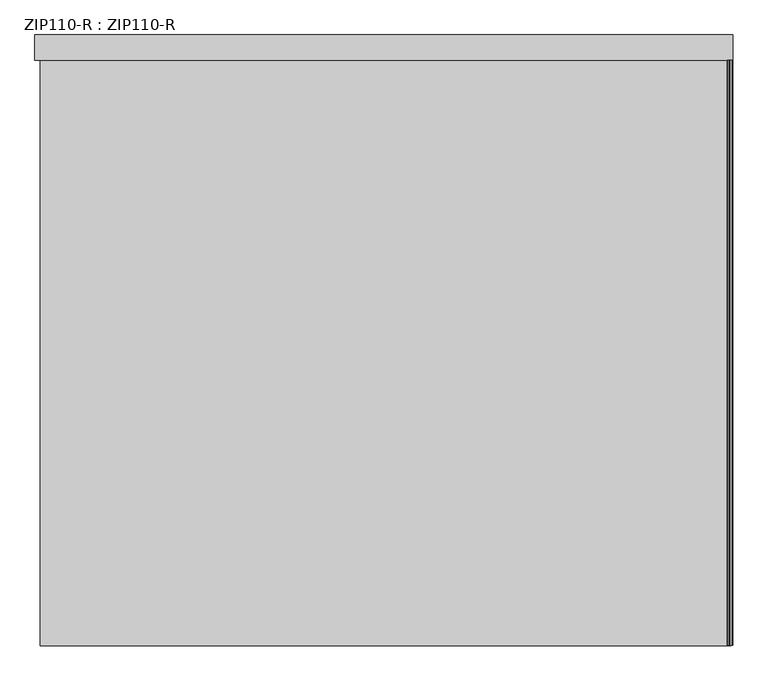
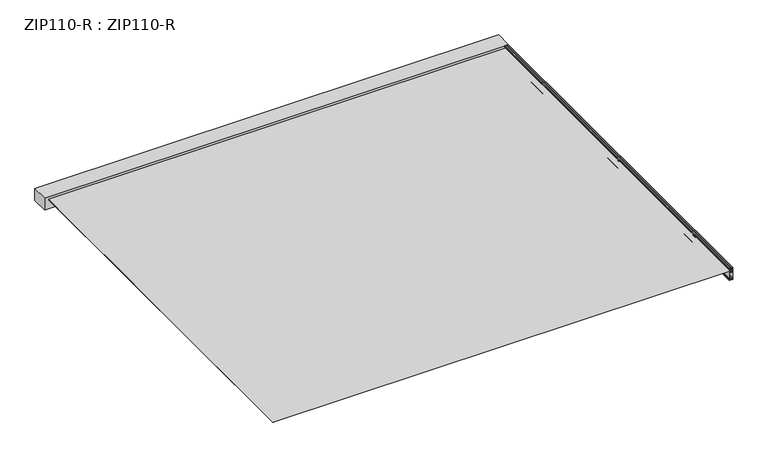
"""IFC4 building model written with IfcOpenShell, lengths in millimetres: proxy geometry, ZIP110-R : ZIP110-R."""

from ifc_helpers import new_model, si_unit, frame, origin, origin_with_axes, place, context, project, spatial, polyline, circle_curve, outline, extrude, source, transform, mapped, element, save
from ifc_brep_helpers import plane_surface, cylinder_surface, revolved_surface, advanced_brep


def zip110_r_zip110_r_59bd9ca7(model_context):
    return source(origin(), model_context, "Body", "SolidModel", [
        advanced_brep(
        [(1980.5, 2.5, 110.0), (1969.0, 2.5, 110.0), (1968.0, 2.5, 109.0), (1968.0, 2.5, 95.6), (1969.0, 2.5, 94.6), (1977.4, 2.5, 94.6), (1977.4, 2.5, 95.8), (1974.0, 2.5, 95.8), (1973.5, 2.5, 96.3), (1973.5, 2.5, 102.0), (1974.0, 2.5, 102.5), (1978.25, 2.5, 102.5), (1988.2, 2.5, 102.5), (1988.7, 2.5, 102.0), (1988.7, 2.5, 93.25), (1988.7, 2.5, 88.9474648), (1988.7, 2.5, 84.75), (1988.7, 2.5, 72.1), (1989.2, 2.5, 71.6), (1990.2, 2.5, 71.6), (1990.2, 2.5, 72.8), (1992.7954131, 2.5, 73.0270692), (1994.0977166, 2.5, 71.7576425), (1993.9535534, 2.5, 70.9535534), (1989.5596194, 2.5, 66.5596194), (1990.4788582, 2.5, 65.6403806), (1995.9384776, 2.5, 71.1), (1997.0, 2.5, 71.1), (1997.5, 2.5, 70.6), (1997.5, 2.5, 62.0), (1997.5, 2.5, 59.641696), (1997.5, 2.5, 58.0), (1997.5, 2.5, 12.8), (1997.0, 2.5, 12.3), (1986.3071797, 2.5, 12.3), (1986.2077069, 2.5, 11.4898593), (1987.0, 2.5, 11.1), (1996.5, 2.5, 11.1), (1997.5, 2.5, 10.1), (1997.5, 2.5, 7.9), (1996.5, 2.5, 6.9), (1987.0, 2.5, 6.9), (1986.0648483, 2.5, 6.2542475), (1986.6190958, 2.5, 5.7), (1997.0, 2.5, 5.7), (1997.5, 2.5, 5.2), (1997.5, 2.5, 2.0), (1997.0, 2.5, 1.5), (1979.0685439, 2.5, 1.5), (1978.6865207, 2.5, 2.3225806), (1977.9818814, 2.5, 3.0425137), (1976.1000964, 2.5, 2.5167213), (1975.178132, 2.5, 4.4938803), (1976.7905004, 2.5, 5.5974385), (1976.8470631, 2.5, 6.5958375), (1975.860326, 2.5, 6.4606803), (1973.9101021, 2.5, 6.7), (1971.5, 2.5, 6.7), (1971.5658186, 2.5, 5.6417681), (1972.3, 2.5, 5.2), (1972.3, 2.5, 3.7577254), (1971.7131759, 2.5, 3.2653215), (1969.5, 2.5, 3.6555641), (1969.5, 2.5, 13.3), (1970.8, 2.5, 13.3), (1971.3, 2.5, 12.8), (1971.3, 2.5, 11.1), (1972.1, 2.5, 11.1), (1972.5, 2.5, 11.919611), (1972.5, 2.5, 13.7609004), (1971.6736482, 2.5, 14.7457081), (1969.5, 2.5, 15.1289809), (1969.5, 2.5, 76.9833887), (1971.4131759, 2.5, 77.3207332), (1972.0, 2.5, 76.8283293), (1972.0, 2.5, 69.9), (1989.2723286, 2.5, 69.9), (1993.3030746, 2.5, 71.4555556), (1992.9, 2.5, 72.5), (1990.4889527, 2.5, 72.5), (1990.4889527, 2.5, 71.4), (1973.5, 2.5, 71.4), (1973.5, 2.5, 77.6886966), (1975.8326175, 2.5, 78.1), (1977.7081958, 2.5, 78.1), (1977.7081958, 2.5, 79.3), (1974.0, 2.5, 79.3), (1968.8263518, 2.5, 78.3877462), (1968.0, 2.5, 77.4029385), (1968.0, 2.5, 7.9507949), (1968.0, 2.5, 2.0685346), (1968.0, 2.5, 1.0), (1969.0, 2.5, 0.0), (1999.0, 2.5, 0.0), (2000.0, 2.5, 1.0), (2000.0, 2.5, 2.0857864), (1999.0, 2.5, 3.0857864), (1999.0, 2.5, 55.75), (2000.0, 2.5, 55.75), (2000.0, 2.5, 57.0432748), (1999.2, 2.5, 57.0432748), (1999.2, 2.5, 60.138621), (1999.2, 2.5, 62.9567252), (2000.0, 2.5, 62.9567252), (2000.0, 2.5, 64.25), (1999.0, 2.5, 64.25), (1999.0, 2.5, 80.4142136), (2000.0, 2.5, 81.4142136), (2000.0, 2.5, 85.2133021), (2000.0, 2.5, 109.0), (1999.0, 2.5, 110.0), (1984.5, 2.5, 110.0), (1983.1683375, 2.5, 110.0), (1980.5, 3355.0, 110.0), (1983.1683375, 3355.0, 110.0), (1984.5, 3355.0, 110.0), (1999.0, 3355.0, 110.0), (2000.0, 3355.0, 109.0), (2000.0, 3355.0, 85.2133021), (2000.0, 3355.0, 81.4142136), (1999.0, 3355.0, 80.4142136), (1999.0, 3355.0, 64.25), (2000.0, 3355.0, 64.25), (2000.0, 3355.0, 62.9567252), (1999.2, 3355.0, 62.9567252), (1999.2, 3355.0, 60.138621), (1999.2, 3355.0, 57.0432748), (2000.0, 3355.0, 57.0432748), (2000.0, 3355.0, 55.75), (1999.0, 3355.0, 55.75), (1999.0, 3355.0, 3.0857864), (2000.0, 3355.0, 2.0857864), (2000.0, 3355.0, 1.0), (1999.0, 3355.0, 0.0), (1969.0, 3355.0, 0.0), (1968.0, 3355.0, 1.0), (1968.0, 3355.0, 2.0685346), (1968.0, 3355.0, 7.9507949), (1968.0, 3355.0, 77.4029385), (1968.8263518, 3355.0, 78.3877462), (1974.0, 3355.0, 79.3), (1977.7081958, 3355.0, 79.3), (1977.7081958, 3355.0, 78.1), (1975.8326175, 3355.0, 78.1), (1973.5, 3355.0, 77.6886966), (1973.5, 3355.0, 71.4), (1990.4889527, 3355.0, 71.4), (1990.4889527, 3355.0, 72.5), (1992.9, 3355.0, 72.5), (1993.3030746, 3355.0, 71.4555556), (1989.2723286, 3355.0, 69.9), (1972.0, 3355.0, 69.9), (1972.0, 3355.0, 76.8283293), (1971.4131759, 3355.0, 77.3207332), (1969.5, 3355.0, 76.9833887), (1969.5, 3355.0, 15.1289809), (1971.6736482, 3355.0, 14.7457081), (1972.5, 3355.0, 13.7609004), (1972.5, 3355.0, 11.919611), (1972.1, 3355.0, 11.1), (1971.3, 3355.0, 11.1), (1971.3, 3355.0, 12.8), (1970.8, 3355.0, 13.3), (1969.5, 3355.0, 13.3), (1969.5, 3355.0, 3.6555641), (1971.7131759, 3355.0, 3.2653215), (1972.3, 3355.0, 3.7577254), (1972.3, 3355.0, 5.2), (1971.5658186, 3355.0, 5.6417681), (1971.5, 3355.0, 6.7), (1973.9101021, 3355.0, 6.7), (1975.860326, 3355.0, 6.4606803), (1976.8470631, 3355.0, 6.5958375), (1976.7905004, 3355.0, 5.5974385), (1975.178132, 3355.0, 4.4938803), (1976.1000964, 3355.0, 2.5167213), (1977.9818814, 3355.0, 3.0425137), (1978.7830573, 3355.0, 2.4440847), (1979.0685439, 3355.0, 1.5), (1997.0, 3355.0, 1.5), (1997.5, 3355.0, 2.0), (1997.5, 3355.0, 5.2), (1997.0, 3355.0, 5.7), (1986.6190958, 3355.0, 5.7), (1986.0648483, 3355.0, 6.2542475), (1987.0, 3355.0, 6.9), (1996.5, 3355.0, 6.9), (1997.5, 3355.0, 7.9), (1997.5, 3355.0, 10.1), (1996.5, 3355.0, 11.1), (1987.0, 3355.0, 11.1), (1986.2077069, 3355.0, 11.4898593), (1986.3071797, 3355.0, 12.3), (1997.0, 3355.0, 12.3), (1997.5, 3355.0, 12.8), (1997.5, 3355.0, 58.0), (1997.5, 3355.0, 59.641696), (1997.5, 3355.0, 62.0), (1997.5, 3355.0, 70.6), (1997.0, 3355.0, 71.1), (1995.9384776, 3355.0, 71.1), (1990.4788582, 3355.0, 65.6403806), (1989.5596194, 3355.0, 66.5596194), (1993.9535534, 3355.0, 70.9535534), (1994.0977166, 3355.0, 71.7576425), (1992.7954131, 3355.0, 73.0270692), (1990.2, 3355.0, 72.8), (1990.2, 3355.0, 71.6), (1989.2, 3355.0, 71.6), (1988.7, 3355.0, 72.1), (1988.7, 3355.0, 84.75), (1988.7, 3355.0, 88.9474648), (1988.7, 3355.0, 93.25), (1988.7, 3355.0, 102.0), (1988.2, 3355.0, 102.5), (1978.25, 3355.0, 102.5), (1974.0, 3355.0, 102.5), (1973.5, 3355.0, 102.0), (1973.5, 3355.0, 96.3), (1974.0, 3355.0, 95.8), (1977.4, 3355.0, 95.8), (1977.4, 3355.0, 94.6), (1969.0, 3355.0, 94.6), (1968.0, 3355.0, 95.6), (1968.0, 3355.0, 109.0), (1969.0, 3355.0, 110.0)],
        [
            (0, 1),
            (1, 2, circle_curve(frame((1969.0, 2.5, 109.0), z_axis=(0.0, -1.0, 0.0), x_axis=(-1.0, 0.0, 0.0)), 1.0)),
            (2, 3),
            (3, 4, circle_curve(frame((1969.0, 2.5, 95.6), z_axis=(0.0, -1.0, 0.0), x_axis=(-1.0, 0.0, 0.0)), 1.0)),
            (4, 5),
            (5, 6, circle_curve(frame((1976.826947, 2.5, 95.2), z_axis=(0.0, -1.0, 0.0), x_axis=(-1.0, 0.0, 0.0)), 0.8296925)),
            (6, 7),
            (7, 8, circle_curve(frame((1974.0, 2.5, 96.3), z_axis=(0.0, 1.0, 0.0), x_axis=(-1.0, 0.0, 0.0)), 0.5)),
            (8, 9),
            (9, 10, circle_curve(frame((1974.0, 2.5, 102.0), z_axis=(0.0, 1.0, 0.0), x_axis=(-1.0, 0.0, 0.0)), 0.5)),
            (10, 11),
            (11, 12),
            (12, 13, circle_curve(frame((1988.2, 2.5, 102.0), z_axis=(0.0, 1.0, 0.0), x_axis=(-1.0, 0.0, 0.0)), 0.5)),
            (13, 14),
            (14, 15),
            (15, 16),
            (16, 17),
            (17, 18, circle_curve(frame((1989.2, 2.5, 72.1), z_axis=(0.0, -1.0, 0.0), x_axis=(-1.0, 0.0, 0.0)), 0.5)),
            (18, 19),
            (19, 20),
            (20, 21),
            (21, 22, circle_curve(frame((1992.9, 2.5, 71.8316356), z_axis=(0.0, 1.0, 0.0), x_axis=(-1.0, 0.0, 0.0)), 1.2)),
            (22, 23, circle_curve(frame((1993.4479343, 2.5, 71.4591725), z_axis=(0.0, 1.0, 0.0), x_axis=(-1.0, 0.0, 0.0)), 0.7150534)),
            (23, 24),
            (24, 25, circle_curve(frame((1990.0192388, 2.5, 66.1), z_axis=(0.0, -1.0, 0.0), x_axis=(-1.0, 0.0, 0.0)), 0.65)),
            (25, 26),
            (26, 27),
            (27, 28, circle_curve(frame((1997.0, 2.5, 70.6), z_axis=(0.0, 1.0, 0.0), x_axis=(-1.0, 0.0, 0.0)), 0.5)),
            (28, 29),
            (29, 30),
            (30, 31),
            (31, 32),
            (32, 33, circle_curve(frame((1997.0, 2.5, 12.8), z_axis=(0.0, 1.0, 0.0), x_axis=(-1.0, 0.0, 0.0)), 0.5)),
            (33, 34),
            (34, 35, circle_curve(frame((1986.4663238, 2.5, 11.8692824), z_axis=(0.0, -1.0, 0.0), x_axis=(-1.0, 0.0, 0.0)), 0.4591781)),
            (35, 36, circle_curve(frame((1987.0, 2.5, 12.1), z_axis=(0.0, -1.0, 0.0), x_axis=(-1.0, 0.0, 0.0)), 1.0)),
            (36, 37),
            (37, 38, circle_curve(frame((1996.5, 2.5, 10.1), z_axis=(0.0, 1.0, 0.0), x_axis=(-1.0, 0.0, 0.0)), 1.0)),
            (38, 39),
            (39, 40, circle_curve(frame((1996.5, 2.5, 7.9), z_axis=(0.0, 1.0, 0.0), x_axis=(-1.0, 0.0, 0.0)), 1.0)),
            (40, 41),
            (41, 42, circle_curve(frame((1987.0, 2.5, 5.9), z_axis=(0.0, -1.0, 0.0), x_axis=(-1.0, 0.0, 0.0)), 1.0)),
            (42, 43, circle_curve(frame((1986.469736, 2.5, 6.1048877), z_axis=(0.0, -1.0, 0.0), x_axis=(-1.0, 0.0, 0.0)), 0.4315581)),
            (43, 44),
            (44, 45, circle_curve(frame((1997.0, 2.5, 5.2), z_axis=(0.0, 1.0, 0.0), x_axis=(-1.0, 0.0, 0.0)), 0.5)),
            (45, 46),
            (46, 47, circle_curve(frame((1997.0, 2.5, 2.0), z_axis=(0.0, 1.0, 0.0), x_axis=(-1.0, 0.0, 0.0)), 0.5)),
            (47, 48),
            (48, 49, circle_curve(frame((1979.0685439, 2.5, 2.0), z_axis=(0.0, 1.0, 0.0), x_axis=(-1.0, 0.0, 0.0)), 0.5)),
            (49, 50, circle_curve(frame((1978.3824693, 2.5, 2.7432992), z_axis=(0.0, -1.0, 0.0), x_axis=(-1.0, 0.0, 0.0)), 0.5)),
            (50, 51, circle_curve(frame((1976.7, 2.5, 4.0), z_axis=(0.0, 1.0, 0.0), x_axis=(-1.0, 0.0, 0.0)), 1.6)),
            (51, 52, circle_curve(frame((1975.9692715, 2.5, 3.6592557), z_axis=(0.0, 1.0, 0.0), x_axis=(-1.0, 0.0, 0.0)), 1.15)),
            (52, 53, circle_curve(frame((1976.7, 2.5, 4.0), z_axis=(0.0, 1.0, 0.0), x_axis=(-1.0, 0.0, 0.0)), 1.6)),
            (53, 54, circle_curve(frame((1976.8187818, 2.5, 6.096638), z_axis=(0.0, -1.0, 0.0), x_axis=(-1.0, 0.0, 0.0)), 0.5)),
            (54, 55, circle_curve(frame((1976.7, 2.5, 4.0), z_axis=(0.0, -1.0, 0.0), x_axis=(-1.0, 0.0, 0.0)), 2.6)),
            (55, 56),
            (56, 57),
            (57, 58, circle_curve(frame((1971.8975235, 2.5, 6.1935619), z_axis=(0.0, -1.0, 0.0), x_axis=(-1.0, 0.0, 0.0)), 0.6438202)),
            (58, 59, circle_curve(frame((1971.8, 2.5, 5.2), z_axis=(0.0, 1.0, 0.0), x_axis=(-1.0, 0.0, 0.0)), 0.5)),
            (59, 60),
            (60, 61, circle_curve(frame((1971.8, 2.5, 3.7577254), z_axis=(0.0, 1.0, 0.0), x_axis=(-1.0, 0.0, 0.0)), 0.5)),
            (61, 62),
            (62, 63),
            (63, 64),
            (64, 65, circle_curve(frame((1970.8, 2.5, 12.8), z_axis=(0.0, 1.0, 0.0), x_axis=(-1.0, 0.0, 0.0)), 0.5)),
            (65, 66),
            (66, 67),
            (67, 68, circle_curve(frame((1971.8859152, 2.5, 11.711894), z_axis=(0.0, -1.0, 0.0), x_axis=(-1.0, 0.0, 0.0)), 0.6482642)),
            (68, 69),
            (69, 70, circle_curve(frame((1971.5, 2.5, 13.7609004), z_axis=(0.0, -1.0, 0.0), x_axis=(-1.0, 0.0, 0.0)), 1.0)),
            (70, 71),
            (71, 72),
            (72, 73),
            (73, 74, circle_curve(frame((1971.5, 2.5, 76.8283293), z_axis=(0.0, 1.0, 0.0), x_axis=(-1.0, 0.0, 0.0)), 0.5)),
            (74, 75),
            (75, 76),
            (76, 77, circle_curve(frame((1989.2723286, 2.5, 75.9), z_axis=(0.0, -1.0, 0.0), x_axis=(-1.0, 0.0, 0.0)), 6.0)),
            (77, 78, circle_curve(frame((1992.9, 2.5, 71.9), z_axis=(0.0, -1.0, 0.0), x_axis=(-1.0, 0.0, 0.0)), 0.6)),
            (78, 79),
            (79, 80),
            (80, 81),
            (81, 82),
            (82, 83),
            (83, 84),
            (84, 85),
            (85, 86),
            (86, 87),
            (87, 88, circle_curve(frame((1969.0, 2.5, 77.4029385), z_axis=(0.0, -1.0, 0.0), x_axis=(-1.0, 0.0, 0.0)), 1.0)),
            (88, 89),
            (89, 90),
            (90, 91),
            (91, 92, circle_curve(frame((1969.0, 2.5, 1.0), z_axis=(0.0, -1.0, 0.0), x_axis=(-1.0, 0.0, 0.0)), 1.0)),
            (92, 93),
            (93, 94, circle_curve(frame((1999.0, 2.5, 1.0), z_axis=(0.0, -1.0, 0.0), x_axis=(-1.0, 0.0, 0.0)), 1.0)),
            (94, 95),
            (95, 96, circle_curve(frame((1999.0, 2.5, 2.0857864), z_axis=(0.0, -1.0, 0.0), x_axis=(-1.0, 0.0, 0.0)), 1.0)),
            (96, 97),
            (97, 98),
            (98, 99),
            (99, 100),
            (100, 101),
            (101, 102),
            (102, 103),
            (103, 104),
            (104, 105),
            (105, 106),
            (106, 107, circle_curve(frame((1999.0, 2.5, 81.4142136), z_axis=(0.0, -1.0, 0.0), x_axis=(-1.0, 0.0, 0.0)), 1.0)),
            (107, 108),
            (108, 109),
            (109, 110, circle_curve(frame((1999.0, 2.5, 109.0), z_axis=(0.0, -1.0, 0.0), x_axis=(-1.0, 0.0, 0.0)), 1.0)),
            (110, 111),
            (111, 112),
            (112, 0),
            (113, 114),
            (114, 115),
            (115, 116),
            (116, 117, circle_curve(frame((1999.0, 3355.0, 109.0), z_axis=(0.0, 1.0, 0.0), x_axis=(-1.0, 0.0, 0.0)), 1.0)),
            (117, 118),
            (118, 119),
            (119, 120, circle_curve(frame((1999.0, 3355.0, 81.4142136), z_axis=(0.0, 1.0, 0.0), x_axis=(-1.0, 0.0, 0.0)), 1.0)),
            (120, 121),
            (121, 122),
            (122, 123),
            (123, 124),
            (124, 125),
            (125, 126),
            (126, 127),
            (127, 128),
            (128, 129),
            (129, 130),
            (130, 131, circle_curve(frame((1999.0, 3355.0, 2.0857864), z_axis=(0.0, 1.0, 0.0), x_axis=(-1.0, 0.0, 0.0)), 1.0)),
            (131, 132),
            (132, 133, circle_curve(frame((1999.0, 3355.0, 1.0), z_axis=(0.0, 1.0, 0.0), x_axis=(-1.0, 0.0, 0.0)), 1.0)),
            (133, 134),
            (134, 135, circle_curve(frame((1969.0, 3355.0, 1.0), z_axis=(0.0, 1.0, 0.0), x_axis=(-1.0, 0.0, 0.0)), 1.0)),
            (135, 136),
            (136, 137),
            (137, 138),
            (138, 139, circle_curve(frame((1969.0, 3355.0, 77.4029385), z_axis=(0.0, 1.0, 0.0), x_axis=(-1.0, 0.0, 0.0)), 1.0)),
            (139, 140),
            (140, 141),
            (141, 142),
            (142, 143),
            (143, 144),
            (144, 145),
            (145, 146),
            (146, 147),
            (147, 148),
            (148, 149, circle_curve(frame((1992.9, 3355.0, 71.9), z_axis=(0.0, 1.0, 0.0), x_axis=(-1.0, 0.0, 0.0)), 0.6)),
            (149, 150, circle_curve(frame((1989.2723286, 3355.0, 75.9), z_axis=(0.0, 1.0, 0.0), x_axis=(-1.0, 0.0, 0.0)), 6.0)),
            (150, 151),
            (151, 152),
            (152, 153, circle_curve(frame((1971.5, 3355.0, 76.8283293), z_axis=(0.0, -1.0, 0.0), x_axis=(-1.0, 0.0, 0.0)), 0.5)),
            (153, 154),
            (154, 155),
            (155, 156),
            (156, 157, circle_curve(frame((1971.5, 3355.0, 13.7609004), z_axis=(0.0, 1.0, 0.0), x_axis=(-1.0, 0.0, 0.0)), 1.0)),
            (157, 158),
            (158, 159, circle_curve(frame((1971.8859152, 3355.0, 11.711894), z_axis=(0.0, 1.0, 0.0), x_axis=(-1.0, 0.0, 0.0)), 0.6482642)),
            (159, 160),
            (160, 161),
            (161, 162, circle_curve(frame((1970.8, 3355.0, 12.8), z_axis=(0.0, -1.0, 0.0), x_axis=(-1.0, 0.0, 0.0)), 0.5)),
            (162, 163),
            (163, 164),
            (164, 165),
            (165, 166, circle_curve(frame((1971.8, 3355.0, 3.7577254), z_axis=(0.0, -1.0, 0.0), x_axis=(-1.0, 0.0, 0.0)), 0.5)),
            (166, 167),
            (167, 168, circle_curve(frame((1971.8, 3355.0, 5.2), z_axis=(0.0, -1.0, 0.0), x_axis=(-1.0, 0.0, 0.0)), 0.5)),
            (168, 169, circle_curve(frame((1971.8975235, 3355.0, 6.1935619), z_axis=(0.0, 1.0, 0.0), x_axis=(-1.0, 0.0, 0.0)), 0.6438202)),
            (169, 170),
            (170, 171),
            (171, 172, circle_curve(frame((1976.7, 3355.0, 4.0), z_axis=(0.0, 1.0, 0.0), x_axis=(-1.0, 0.0, 0.0)), 2.6)),
            (172, 173, circle_curve(frame((1976.8187818, 3355.0, 6.096638), z_axis=(0.0, 1.0, 0.0), x_axis=(-1.0, 0.0, 0.0)), 0.5)),
            (173, 174, circle_curve(frame((1976.7, 3355.0, 4.0), z_axis=(0.0, -1.0, 0.0), x_axis=(-1.0, 0.0, 0.0)), 1.6)),
            (174, 175, circle_curve(frame((1975.9692715, 3355.0, 3.6592557), z_axis=(0.0, -1.0, 0.0), x_axis=(-1.0, 0.0, 0.0)), 1.15)),
            (175, 176, circle_curve(frame((1976.7, 3355.0, 4.0), z_axis=(0.0, -1.0, 0.0), x_axis=(-1.0, 0.0, 0.0)), 1.6)),
            (176, 177, circle_curve(frame((1978.3824693, 3355.0, 2.7432992), z_axis=(0.0, 1.0, 0.0), x_axis=(-1.0, 0.0, 0.0)), 0.5)),
            (177, 178, circle_curve(frame((1979.0685439, 3355.0, 2.0), z_axis=(0.0, -1.0, 0.0), x_axis=(-1.0, 0.0, 0.0)), 0.5)),
            (178, 179),
            (179, 180, circle_curve(frame((1997.0, 3355.0, 2.0), z_axis=(0.0, -1.0, 0.0), x_axis=(-1.0, 0.0, 0.0)), 0.5)),
            (180, 181),
            (181, 182, circle_curve(frame((1997.0, 3355.0, 5.2), z_axis=(0.0, -1.0, 0.0), x_axis=(-1.0, 0.0, 0.0)), 0.5)),
            (182, 183),
            (183, 184, circle_curve(frame((1986.469736, 3355.0, 6.1048877), z_axis=(0.0, 1.0, 0.0), x_axis=(-1.0, 0.0, 0.0)), 0.4315581)),
            (184, 185, circle_curve(frame((1987.0, 3355.0, 5.9), z_axis=(0.0, 1.0, 0.0), x_axis=(-1.0, 0.0, 0.0)), 1.0)),
            (185, 186),
            (186, 187, circle_curve(frame((1996.5, 3355.0, 7.9), z_axis=(0.0, -1.0, 0.0), x_axis=(-1.0, 0.0, 0.0)), 1.0)),
            (187, 188),
            (188, 189, circle_curve(frame((1996.5, 3355.0, 10.1), z_axis=(0.0, -1.0, 0.0), x_axis=(-1.0, 0.0, 0.0)), 1.0)),
            (189, 190),
            (190, 191, circle_curve(frame((1987.0, 3355.0, 12.1), z_axis=(0.0, 1.0, 0.0), x_axis=(-1.0, 0.0, 0.0)), 1.0)),
            (191, 192, circle_curve(frame((1986.4663238, 3355.0, 11.8692824), z_axis=(0.0, 1.0, 0.0), x_axis=(-1.0, 0.0, 0.0)), 0.4591781)),
            (192, 193),
            (193, 194, circle_curve(frame((1997.0, 3355.0, 12.8), z_axis=(0.0, -1.0, 0.0), x_axis=(-1.0, 0.0, 0.0)), 0.5)),
            (194, 195),
            (195, 196),
            (196, 197),
            (197, 198),
            (198, 199, circle_curve(frame((1997.0, 3355.0, 70.6), z_axis=(0.0, -1.0, 0.0), x_axis=(-1.0, 0.0, 0.0)), 0.5)),
            (199, 200),
            (200, 201),
            (201, 202, circle_curve(frame((1990.0192388, 3355.0, 66.1), z_axis=(0.0, 1.0, 0.0), x_axis=(-1.0, 0.0, 0.0)), 0.65)),
            (202, 203),
            (203, 204, circle_curve(frame((1993.4479343, 3355.0, 71.4591725), z_axis=(0.0, -1.0, 0.0), x_axis=(-1.0, 0.0, 0.0)), 0.7150534)),
            (204, 205, circle_curve(frame((1992.9, 3355.0, 71.8316356), z_axis=(0.0, -1.0, 0.0), x_axis=(-1.0, 0.0, 0.0)), 1.2)),
            (205, 206),
            (206, 207),
            (207, 208),
            (208, 209, circle_curve(frame((1989.2, 3355.0, 72.1), z_axis=(0.0, 1.0, 0.0), x_axis=(-1.0, 0.0, 0.0)), 0.5)),
            (209, 210),
            (210, 211),
            (211, 212),
            (212, 213),
            (213, 214, circle_curve(frame((1988.2, 3355.0, 102.0), z_axis=(0.0, -1.0, 0.0), x_axis=(-1.0, 0.0, 0.0)), 0.5)),
            (214, 215),
            (215, 216),
            (216, 217, circle_curve(frame((1974.0, 3355.0, 102.0), z_axis=(0.0, -1.0, 0.0), x_axis=(-1.0, 0.0, 0.0)), 0.5)),
            (217, 218),
            (218, 219, circle_curve(frame((1974.0, 3355.0, 96.3), z_axis=(0.0, -1.0, 0.0), x_axis=(-1.0, 0.0, 0.0)), 0.5)),
            (219, 220),
            (220, 221, circle_curve(frame((1976.826947, 3355.0, 95.2), z_axis=(0.0, 1.0, 0.0), x_axis=(-1.0, 0.0, 0.0)), 0.8296925)),
            (221, 222),
            (222, 223, circle_curve(frame((1969.0, 3355.0, 95.6), z_axis=(0.0, 1.0, 0.0), x_axis=(-1.0, 0.0, 0.0)), 1.0)),
            (223, 224),
            (224, 225, circle_curve(frame((1969.0, 3355.0, 109.0), z_axis=(0.0, 1.0, 0.0), x_axis=(-1.0, 0.0, 0.0)), 1.0)),
            (225, 113),
            (112, 114),
            (113, 0),
            (111, 115),
            (110, 116),
            (109, 117),
            (108, 118),
            (107, 119),
            (106, 120),
            (105, 121),
            (104, 122),
            (103, 123),
            (102, 124),
            (101, 125),
            (100, 126),
            (99, 127),
            (98, 128),
            (97, 129),
            (96, 130),
            (95, 131),
            (94, 132),
            (93, 133),
            (92, 134),
            (91, 135),
            (90, 136),
            (89, 137),
            (88, 138),
            (87, 139),
            (86, 140),
            (85, 141),
            (84, 142),
            (83, 143),
            (82, 144),
            (81, 145),
            (80, 146),
            (79, 147),
            (78, 148),
            (77, 149),
            (76, 150),
            (75, 151),
            (74, 152),
            (73, 153),
            (72, 154),
            (71, 155),
            (70, 156),
            (69, 157),
            (68, 158),
            (67, 159),
            (66, 160),
            (65, 161),
            (64, 162),
            (63, 163),
            (62, 164),
            (61, 165),
            (60, 166),
            (59, 167),
            (58, 168),
            (57, 169),
            (56, 170),
            (55, 171),
            (54, 172),
            (53, 173),
            (52, 174),
            (51, 175),
            (50, 176),
            (49, 177),
            (48, 178),
            (47, 179),
            (46, 180),
            (45, 181),
            (44, 182),
            (43, 183),
            (42, 184),
            (41, 185),
            (40, 186),
            (39, 187),
            (38, 188),
            (37, 189),
            (36, 190),
            (35, 191),
            (34, 192),
            (33, 193),
            (32, 194),
            (31, 195),
            (30, 196),
            (29, 197),
            (28, 198),
            (27, 199),
            (26, 200),
            (25, 201),
            (24, 202),
            (23, 203),
            (22, 204),
            (21, 205),
            (20, 206),
            (19, 207),
            (18, 208),
            (17, 209),
            (16, 210),
            (15, 211),
            (14, 212),
            (13, 213),
            (12, 214),
            (11, 215),
            (10, 216),
            (9, 217),
            (8, 218),
            (7, 219),
            (6, 220),
            (5, 221),
            (4, 222),
            (3, 223),
            (2, 224),
            (1, 225),
        ],
        [
            plane_surface(frame((1981.836675, 2.5, 110.0), z_axis=(0.0, -1.0, 0.0), x_axis=(1.0, 0.0, 0.0))),
            plane_surface(frame((1981.836675, 3355.0, 110.0), z_axis=(0.0, 1.0, 0.0), x_axis=(-1.0, 0.0, 0.0))),
            plane_surface(frame((1980.5, 2.5, 110.0), z_axis=(0.0, 0.0, 1.0), x_axis=(0.0, 1.0, 0.0))),
            plane_surface(frame((1983.1683375, 2.5, 110.0), z_axis=(0.0, 0.0, 1.0), x_axis=(0.0, 1.0, 0.0))),
            plane_surface(frame((1984.5, 2.5, 110.0), z_axis=(0.0, 0.0, 1.0), x_axis=(0.0, 1.0, 0.0))),
            cylinder_surface(frame((1999.0, 3355.0, 109.0), z_axis=(0.0, -1.0, 0.0), x_axis=(-1.0, 0.0, 0.0)), 1.0),
            plane_surface(frame((2000.0, 2.5, 109.0), z_axis=(1.0, 0.0, 0.0), x_axis=(0.0, 1.0, 0.0))),
            plane_surface(frame((2000.0, 2.5, 85.2133021), z_axis=(1.0, 0.0, 0.0), x_axis=(0.0, 1.0, 0.0))),
            cylinder_surface(frame((1999.0, 3355.0, 81.4142136), z_axis=(0.0, -1.0, 0.0), x_axis=(-1.0, 0.0, 0.0)), 1.0),
            plane_surface(frame((1999.0, 2.5, 80.4142136), z_axis=(1.0, 0.0, 0.0), x_axis=(0.0, 1.0, 0.0))),
            plane_surface(frame((1999.0, 2.5, 64.25), z_axis=(0.0, 0.0, 1.0), x_axis=(0.0, 1.0, 0.0))),
            plane_surface(frame((2000.0, 2.5, 64.25), z_axis=(1.0, 0.0, 0.0), x_axis=(0.0, 1.0, 0.0))),
            plane_surface(frame((2000.0, 2.5, 62.9567252), z_axis=(0.0, 0.0, -1.0), x_axis=(0.0, 1.0, 0.0))),
            plane_surface(frame((1999.2, 2.5, 62.9567252), z_axis=(1.0, 0.0, 0.0), x_axis=(0.0, 1.0, 0.0))),
            plane_surface(frame((1999.2, 2.5, 60.138621), z_axis=(1.0, 0.0, 0.0), x_axis=(0.0, 1.0, 0.0))),
            plane_surface(frame((1999.2, 2.5, 57.0432748), z_axis=(0.0, 0.0, 1.0), x_axis=(0.0, 1.0, 0.0))),
            plane_surface(frame((2000.0, 2.5, 57.0432748), z_axis=(1.0, 0.0, 0.0), x_axis=(0.0, 1.0, 0.0))),
            plane_surface(frame((2000.0, 2.5, 55.75), z_axis=(0.0, 0.0, -1.0), x_axis=(0.0, 1.0, 0.0))),
            plane_surface(frame((1999.0, 2.5, 55.75), z_axis=(1.0, 0.0, 0.0), x_axis=(0.0, 1.0, 0.0))),
            cylinder_surface(frame((1999.0, 3355.0, 2.0857864), z_axis=(0.0, -1.0, 0.0), x_axis=(-1.0, 0.0, 0.0)), 1.0),
            plane_surface(frame((2000.0, 2.5, 2.0857864), z_axis=(1.0, 0.0, 0.0), x_axis=(0.0, 1.0, 0.0))),
            cylinder_surface(frame((1999.0, 3355.0, 1.0), z_axis=(0.0, -1.0, 0.0), x_axis=(-1.0, 0.0, 0.0)), 1.0),
            plane_surface(frame((1999.0, 2.5, 0.0), z_axis=(0.0, 0.0, -1.0), x_axis=(0.0, 1.0, 0.0))),
            cylinder_surface(frame((1969.0, 3355.0, 1.0), z_axis=(0.0, -1.0, 0.0), x_axis=(-1.0, 0.0, 0.0)), 1.0),
            plane_surface(frame((1968.0, 2.5, 1.0), z_axis=(-1.0, 0.0, 0.0), x_axis=(0.0, 1.0, 0.0))),
            plane_surface(frame((1968.0, 2.5, 2.0685346), z_axis=(-1.0, 0.0, 0.0), x_axis=(0.0, 1.0, 0.0))),
            plane_surface(frame((1968.0, 2.5, 7.9507949), z_axis=(-1.0, 0.0, 0.0), x_axis=(0.0, 1.0, 0.0))),
            cylinder_surface(frame((1969.0, 3355.0, 77.4029385), z_axis=(0.0, -1.0, 0.0), x_axis=(-1.0, 0.0, 0.0)), 1.0),
            plane_surface(frame((1968.8263518, 2.5, 78.3877462), z_axis=(-0.17364817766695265, 0.0, 0.9848077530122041), x_axis=(0.0, 1.0, 0.0))),
            plane_surface(frame((1974.0, 2.5, 79.3), z_axis=(0.0, 0.0, 1.0), x_axis=(0.0, 1.0, 0.0))),
            plane_surface(frame((1977.7081958, 2.5, 79.3), z_axis=(1.0, 0.0, 0.0), x_axis=(0.0, 1.0, 0.0))),
            plane_surface(frame((1977.7081958, 2.5, 78.1), z_axis=(0.0, 0.0, -1.0), x_axis=(0.0, 1.0, 0.0))),
            plane_surface(frame((1975.8326175, 2.5, 78.1), z_axis=(0.17364817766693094, 0.0, -0.984807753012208), x_axis=(0.0, 1.0, 0.0))),
            plane_surface(frame((1973.5, 2.5, 77.6886966), z_axis=(1.0, 0.0, 0.0), x_axis=(0.0, 1.0, 0.0))),
            plane_surface(frame((1973.5, 2.5, 71.4), z_axis=(0.0, 0.0, 1.0), x_axis=(0.0, 1.0, 0.0))),
            plane_surface(frame((1990.4889527, 2.5, 71.4), z_axis=(-1.0, 0.0, 0.0), x_axis=(0.0, 1.0, 0.0))),
            plane_surface(frame((1990.4889527, 2.5, 72.5), z_axis=(0.0, 0.0, 1.0), x_axis=(0.0, 1.0, 0.0))),
            cylinder_surface(frame((1992.9, 3355.0, 71.9), z_axis=(0.0, -1.0, 0.0), x_axis=(-1.0, 0.0, 0.0)), 0.6),
            cylinder_surface(frame((1989.2723286, 3355.0, 75.9), z_axis=(0.0, -1.0, 0.0), x_axis=(-1.0, 0.0, 0.0)), 6.0),
            plane_surface(frame((1989.2723286, 2.5, 69.9), z_axis=(0.0, 0.0, -1.0), x_axis=(0.0, 1.0, 0.0))),
            plane_surface(frame((1972.0, 2.5, 69.9), z_axis=(-1.0, 0.0, 0.0), x_axis=(0.0, 1.0, 0.0))),
            revolved_surface(polyline([(1971.0, 3355.0, 76.8283293), (1971.0, 2.5, 76.8283293)]), (1971.5, 3355.0, 76.8283293), (0.0, 1.0, 0.0)),
            plane_surface(frame((1971.4131759, 2.5, 77.3207332), z_axis=(0.1736481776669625, 0.0, -0.9848077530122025), x_axis=(0.0, 1.0, 0.0))),
            plane_surface(frame((1969.5, 2.5, 76.9833887), z_axis=(1.0, 0.0, 0.0), x_axis=(0.0, 1.0, 0.0))),
            plane_surface(frame((1969.5, 2.5, 15.1289809), z_axis=(0.1736481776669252, 0.0, 0.984807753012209), x_axis=(0.0, 1.0, 0.0))),
            cylinder_surface(frame((1971.5, 3355.0, 13.7609004), z_axis=(0.0, -1.0, 0.0), x_axis=(-1.0, 0.0, 0.0)), 1.0),
            plane_surface(frame((1972.5, 2.5, 13.7609004), z_axis=(1.0, 0.0, 0.0), x_axis=(0.0, 1.0, 0.0))),
            cylinder_surface(frame((1971.8859152, 3355.0, 11.711894), z_axis=(0.0, -1.0, 0.0), x_axis=(-1.0, 0.0, 0.0)), 0.6482642),
            plane_surface(frame((1972.1, 2.5, 11.1), z_axis=(0.0, 0.0, -1.0), x_axis=(0.0, 1.0, 0.0))),
            plane_surface(frame((1971.3, 2.5, 11.1), z_axis=(-1.0, 0.0, 0.0), x_axis=(0.0, 1.0, 0.0))),
            revolved_surface(polyline([(1970.3, 3355.0, 12.8), (1970.3, 2.5, 12.8)]), (1970.8, 3355.0, 12.8), (0.0, 1.0, 0.0)),
            plane_surface(frame((1970.8, 2.5, 13.3), z_axis=(0.0, 0.0, -1.0), x_axis=(0.0, 1.0, 0.0))),
            plane_surface(frame((1969.5, 2.5, 13.3), z_axis=(1.0, 0.0, 0.0), x_axis=(0.0, 1.0, 0.0))),
            plane_surface(frame((1969.5, 2.5, 3.6555641), z_axis=(0.17364817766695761, 0.0, 0.9848077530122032), x_axis=(0.0, 1.0, 0.0))),
            revolved_surface(polyline([(1971.3, 3355.0, 3.7577254), (1971.3, 2.5, 3.7577254)]), (1971.8, 3355.0, 3.7577254), (0.0, 1.0, 0.0)),
            plane_surface(frame((1972.3, 2.5, 3.7577254), z_axis=(-1.0, 0.0, 0.0), x_axis=(0.0, 1.0, 0.0))),
            revolved_surface(polyline([(1971.3, 3355.0, 5.2), (1971.3, 2.5, 5.2)]), (1971.8, 3355.0, 5.2), (0.0, 1.0, 0.0)),
            cylinder_surface(frame((1971.8975235, 3355.0, 6.1935619), z_axis=(0.0, -1.0, 0.0), x_axis=(-1.0, 0.0, 0.0)), 0.6438202),
            plane_surface(frame((1971.5, 2.5, 6.7), z_axis=(0.0, 0.0, 1.0), x_axis=(0.0, 1.0, 0.0))),
            plane_surface(frame((1973.9101021, 2.5, 6.7), z_axis=(0.12180029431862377, 0.0, 0.9925546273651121), x_axis=(0.0, 1.0, 0.0))),
            cylinder_surface(frame((1976.7, 3355.0, 4.0), z_axis=(0.0, -1.0, 0.0), x_axis=(-1.0, 0.0, 0.0)), 2.6),
            cylinder_surface(frame((1976.8187818, 3355.0, 6.096638), z_axis=(0.0, -1.0, 0.0), x_axis=(-1.0, 0.0, 0.0)), 0.5),
            revolved_surface(polyline([(1975.1000000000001, 3355.0, 4.0), (1975.1000000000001, 2.5, 4.0)]), (1976.7, 3355.0, 4.0), (0.0, 1.0, 0.0)),
            revolved_surface(polyline([(1974.8192715, 3355.0, 3.6592557), (1974.8192715, 2.5, 3.6592557)]), (1975.9692715, 3355.0, 3.6592557), (0.0, 1.0, 0.0)),
            cylinder_surface(frame((1978.3824693, 3355.0, 2.7432992), z_axis=(0.0, -1.0, 0.0), x_axis=(-1.0, 0.0, 0.0)), 0.5),
            revolved_surface(polyline([(1978.5685439, 3355.0, 2.0), (1978.5685439, 2.5, 2.0)]), (1979.0685439, 3355.0, 2.0), (0.0, 1.0, 0.0)),
            plane_surface(frame((1979.0685439, 2.5, 1.5), z_axis=(0.0, 0.0, 1.0), x_axis=(0.0, 1.0, 0.0))),
            revolved_surface(polyline([(1996.5, 3355.0, 2.0), (1996.5, 2.5, 2.0)]), (1997.0, 3355.0, 2.0), (0.0, 1.0, 0.0)),
            plane_surface(frame((1997.5, 2.5, 2.0), z_axis=(-1.0, 0.0, 0.0), x_axis=(0.0, 1.0, 0.0))),
            revolved_surface(polyline([(1996.5, 3355.0, 5.2), (1996.5, 2.5, 5.2)]), (1997.0, 3355.0, 5.2), (0.0, 1.0, 0.0)),
            plane_surface(frame((1997.0, 2.5, 5.7), z_axis=(0.0, 0.0, -1.0), x_axis=(0.0, 1.0, 0.0))),
            cylinder_surface(frame((1986.469736, 3355.0, 6.1048877), z_axis=(0.0, -1.0, 0.0), x_axis=(-1.0, 0.0, 0.0)), 0.4315581),
            cylinder_surface(frame((1987.0, 3355.0, 5.9), z_axis=(0.0, -1.0, 0.0), x_axis=(-1.0, 0.0, 0.0)), 1.0),
            plane_surface(frame((1987.0, 2.5, 6.9), z_axis=(0.0, 0.0, 1.0), x_axis=(0.0, 1.0, 0.0))),
            revolved_surface(polyline([(1995.5, 3355.0, 7.9), (1995.5, 2.5, 7.9)]), (1996.5, 3355.0, 7.9), (0.0, 1.0, 0.0)),
            plane_surface(frame((1997.5, 2.5, 7.9), z_axis=(-1.0, 0.0, 0.0), x_axis=(0.0, 1.0, 0.0))),
            revolved_surface(polyline([(1995.5, 3355.0, 10.1), (1995.5, 2.5, 10.1)]), (1996.5, 3355.0, 10.1), (0.0, 1.0, 0.0)),
            plane_surface(frame((1996.5, 2.5, 11.1), z_axis=(0.0, 0.0, -1.0), x_axis=(0.0, 1.0, 0.0))),
            cylinder_surface(frame((1987.0, 3355.0, 12.1), z_axis=(0.0, -1.0, 0.0), x_axis=(-1.0, 0.0, 0.0)), 1.0),
            cylinder_surface(frame((1986.4663238, 3355.0, 11.8692824), z_axis=(0.0, -1.0, 0.0), x_axis=(-1.0, 0.0, 0.0)), 0.4591781),
            plane_surface(frame((1986.3071797, 2.5, 12.3), z_axis=(0.0, 0.0, 1.0), x_axis=(0.0, 1.0, 0.0))),
            revolved_surface(polyline([(1996.5, 3355.0, 12.8), (1996.5, 2.5, 12.8)]), (1997.0, 3355.0, 12.8), (0.0, 1.0, 0.0)),
            plane_surface(frame((1997.5, 2.5, 12.8), z_axis=(-1.0, 0.0, 0.0), x_axis=(0.0, 1.0, 0.0))),
            plane_surface(frame((1997.5, 2.5, 58.0), z_axis=(-1.0, 0.0, 0.0), x_axis=(0.0, 1.0, 0.0))),
            plane_surface(frame((1997.5, 2.5, 59.641696), z_axis=(-1.0, 0.0, 0.0), x_axis=(0.0, 1.0, 0.0))),
            plane_surface(frame((1997.5, 2.5, 62.0), z_axis=(-1.0, 0.0, 0.0), x_axis=(0.0, 1.0, 0.0))),
            revolved_surface(polyline([(1996.5, 3355.0, 70.6), (1996.5, 2.5, 70.6)]), (1997.0, 3355.0, 70.6), (0.0, 1.0, 0.0)),
            plane_surface(frame((1997.0, 2.5, 71.1), z_axis=(0.0, 0.0, -1.0), x_axis=(0.0, 1.0, 0.0))),
            plane_surface(frame((1995.9384776, 2.5, 71.1), z_axis=(0.7071067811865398, 0.0, -0.7071067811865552), x_axis=(0.0, 1.0, 0.0))),
            cylinder_surface(frame((1990.0192388, 3355.0, 66.1), z_axis=(0.0, -1.0, 0.0), x_axis=(-1.0, 0.0, 0.0)), 0.65),
            plane_surface(frame((1989.5596194, 2.5, 66.5596194), z_axis=(-0.7071067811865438, 0.0, 0.7071067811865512), x_axis=(0.0, 1.0, 0.0))),
            revolved_surface(polyline([(1992.7328809, 3355.0, 71.4591725), (1992.7328809, 2.5, 71.4591725)]), (1993.4479343, 3355.0, 71.4591725), (0.0, 1.0, 0.0)),
            revolved_surface(polyline([(1991.7, 3355.0, 71.8316356), (1991.7, 2.5, 71.8316356)]), (1992.9, 3355.0, 71.8316356), (0.0, 1.0, 0.0)),
            plane_surface(frame((1992.7954131, 2.5, 73.0270692), z_axis=(0.08715574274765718, 0.0, -0.9961946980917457), x_axis=(0.0, 1.0, 0.0))),
            plane_surface(frame((1990.2, 2.5, 72.8), z_axis=(1.0, 0.0, 0.0), x_axis=(0.0, 1.0, 0.0))),
            plane_surface(frame((1990.2, 2.5, 71.6), z_axis=(0.0, 0.0, -1.0), x_axis=(0.0, 1.0, 0.0))),
            cylinder_surface(frame((1989.2, 3355.0, 72.1), z_axis=(0.0, -1.0, 0.0), x_axis=(-1.0, 0.0, 0.0)), 0.5),
            plane_surface(frame((1988.7, 2.5, 72.1), z_axis=(-1.0, 0.0, 0.0), x_axis=(0.0, 1.0, 0.0))),
            plane_surface(frame((1988.7, 2.5, 84.75), z_axis=(-1.0, 0.0, 0.0), x_axis=(0.0, 1.0, 0.0))),
            plane_surface(frame((1988.7, 2.5, 88.9474648), z_axis=(-1.0, 0.0, 0.0), x_axis=(0.0, 1.0, 0.0))),
            plane_surface(frame((1988.7, 2.5, 93.25), z_axis=(-1.0, 0.0, 0.0), x_axis=(0.0, 1.0, 0.0))),
            revolved_surface(polyline([(1987.7, 3355.0, 102.0), (1987.7, 2.5, 102.0)]), (1988.2, 3355.0, 102.0), (0.0, 1.0, 0.0)),
            plane_surface(frame((1988.2, 2.5, 102.5), z_axis=(0.0, 0.0, -1.0), x_axis=(0.0, 1.0, 0.0))),
            plane_surface(frame((1978.25, 2.5, 102.5), z_axis=(0.0, 0.0, -1.0), x_axis=(0.0, 1.0, 0.0))),
            revolved_surface(polyline([(1973.5, 3355.0, 102.0), (1973.5, 2.5, 102.0)]), (1974.0, 3355.0, 102.0), (0.0, 1.0, 0.0)),
            plane_surface(frame((1973.5, 2.5, 102.0), z_axis=(1.0, 0.0, 0.0), x_axis=(0.0, 1.0, 0.0))),
            revolved_surface(polyline([(1973.5, 3355.0, 96.3), (1973.5, 2.5, 96.3)]), (1974.0, 3355.0, 96.3), (0.0, 1.0, 0.0)),
            plane_surface(frame((1974.0, 2.5, 95.8), z_axis=(0.0, 0.0, 1.0), x_axis=(0.0, 1.0, 0.0))),
            cylinder_surface(frame((1976.826947, 3355.0, 95.2), z_axis=(0.0, -1.0, 0.0), x_axis=(-1.0, 0.0, 0.0)), 0.8296925),
            plane_surface(frame((1977.4, 2.5, 94.6), z_axis=(0.0, 0.0, -1.0), x_axis=(0.0, 1.0, 0.0))),
            cylinder_surface(frame((1969.0, 3355.0, 95.6), z_axis=(0.0, -1.0, 0.0), x_axis=(-1.0, 0.0, 0.0)), 1.0),
            plane_surface(frame((1968.0, 2.5, 95.6), z_axis=(-1.0, 0.0, 0.0), x_axis=(0.0, 1.0, 0.0))),
            cylinder_surface(frame((1969.0, 3355.0, 109.0), z_axis=(0.0, -1.0, 0.0), x_axis=(-1.0, 0.0, 0.0)), 1.0),
            plane_surface(frame((1969.0, 2.5, 110.0), z_axis=(0.0, 0.0, 1.0), x_axis=(0.0, 1.0, 0.0))),
        ],
        [
            (0, [[1, 2, 3, 4, 5, 6, 7, 8, 9, 10, 11, 12, 13, 14, 15, 16, 17, 18, 19, 20, 21, 22, 23, 24, 25, 26, 27, 28, 29, 30, 31, 32, 33, 34, 35, 36, 37, 38, 39, 40, 41, 42, 43, 44, 45, 46, 47, 48, 49, 50, 51, 52, 53, 54, 55, 56, 57, 58, 59, 60, 61, 62, 63, 64, 65, 66, 67, 68, 69, 70, 71, 72, 73, 74, 75, 76, 77, 78, 79, 80, 81, 82, 83, 84, 85, 86, 87, 88, 89, 90, 91, 92, 93, 94, 95, 96, 97, 98, 99, 100, 101, 102, 103, 104, 105, 106, 107, 108, 109, 110, 111, 112, 113]]),
            (1, [[114, 115, 116, 117, 118, 119, 120, 121, 122, 123, 124, 125, 126, 127, 128, 129, 130, 131, 132, 133, 134, 135, 136, 137, 138, 139, 140, 141, 142, 143, 144, 145, 146, 147, 148, 149, 150, 151, 152, 153, 154, 155, 156, 157, 158, 159, 160, 161, 162, 163, 164, 165, 166, 167, 168, 169, 170, 171, 172, 173, 174, 175, 176, 177, 178, 179, 180, 181, 182, 183, 184, 185, 186, 187, 188, 189, 190, 191, 192, 193, 194, 195, 196, 197, 198, 199, 200, 201, 202, 203, 204, 205, 206, 207, 208, 209, 210, 211, 212, 213, 214, 215, 216, 217, 218, 219, 220, 221, 222, 223, 224, 225, 226]]),
            (2, [[227, -114, 228, -113]]),
            (3, [[229, -115, -227, -112]]),
            (4, [[230, -116, -229, -111]]),
            (5, [[231, -117, -230, -110]]),
            (6, [[232, -118, -231, -109]]),
            (7, [[233, -119, -232, -108]]),
            (8, [[234, -120, -233, -107]]),
            (9, [[235, -121, -234, -106]]),
            (10, [[236, -122, -235, -105]]),
            (11, [[237, -123, -236, -104]]),
            (12, [[238, -124, -237, -103]]),
            (13, [[239, -125, -238, -102]]),
            (14, [[240, -126, -239, -101]]),
            (15, [[241, -127, -240, -100]]),
            (16, [[242, -128, -241, -99]]),
            (17, [[243, -129, -242, -98]]),
            (18, [[244, -130, -243, -97]]),
            (19, [[245, -131, -244, -96]]),
            (20, [[246, -132, -245, -95]]),
            (21, [[247, -133, -246, -94]]),
            (22, [[248, -134, -247, -93]]),
            (23, [[249, -135, -248, -92]]),
            (24, [[250, -136, -249, -91]]),
            (25, [[251, -137, -250, -90]]),
            (26, [[252, -138, -251, -89]]),
            (27, [[253, -139, -252, -88]]),
            (28, [[254, -140, -253, -87]]),
            (29, [[255, -141, -254, -86]]),
            (30, [[256, -142, -255, -85]]),
            (31, [[257, -143, -256, -84]]),
            (32, [[258, -144, -257, -83]]),
            (33, [[259, -145, -258, -82]]),
            (34, [[260, -146, -259, -81]]),
            (35, [[261, -147, -260, -80]]),
            (36, [[262, -148, -261, -79]]),
            (37, [[263, -149, -262, -78]]),
            (38, [[264, -150, -263, -77]]),
            (39, [[265, -151, -264, -76]]),
            (40, [[266, -152, -265, -75]]),
            (41, [[267, -153, -266, -74]]),
            (42, [[268, -154, -267, -73]]),
            (43, [[269, -155, -268, -72]]),
            (44, [[270, -156, -269, -71]]),
            (45, [[271, -157, -270, -70]]),
            (46, [[272, -158, -271, -69]]),
            (47, [[273, -159, -272, -68]]),
            (48, [[274, -160, -273, -67]]),
            (49, [[275, -161, -274, -66]]),
            (50, [[276, -162, -275, -65]]),
            (51, [[277, -163, -276, -64]]),
            (52, [[278, -164, -277, -63]]),
            (53, [[279, -165, -278, -62]]),
            (54, [[280, -166, -279, -61]]),
            (55, [[281, -167, -280, -60]]),
            (56, [[282, -168, -281, -59]]),
            (57, [[283, -169, -282, -58]]),
            (58, [[284, -170, -283, -57]]),
            (59, [[285, -171, -284, -56]]),
            (60, [[286, -172, -285, -55]]),
            (61, [[287, -173, -286, -54]]),
            (62, [[288, -174, -287, -53]]),
            (63, [[289, -175, -288, -52]]),
            (62, [[290, -176, -289, -51]]),
            (64, [[291, -177, -290, -50]]),
            (65, [[292, -178, -291, -49]]),
            (66, [[293, -179, -292, -48]]),
            (67, [[294, -180, -293, -47]]),
            (68, [[295, -181, -294, -46]]),
            (69, [[296, -182, -295, -45]]),
            (70, [[297, -183, -296, -44]]),
            (71, [[298, -184, -297, -43]]),
            (72, [[299, -185, -298, -42]]),
            (73, [[300, -186, -299, -41]]),
            (74, [[301, -187, -300, -40]]),
            (75, [[302, -188, -301, -39]]),
            (76, [[303, -189, -302, -38]]),
            (77, [[304, -190, -303, -37]]),
            (78, [[305, -191, -304, -36]]),
            (79, [[306, -192, -305, -35]]),
            (80, [[307, -193, -306, -34]]),
            (81, [[308, -194, -307, -33]]),
            (82, [[309, -195, -308, -32]]),
            (83, [[310, -196, -309, -31]]),
            (84, [[311, -197, -310, -30]]),
            (85, [[312, -198, -311, -29]]),
            (86, [[313, -199, -312, -28]]),
            (87, [[314, -200, -313, -27]]),
            (88, [[315, -201, -314, -26]]),
            (89, [[316, -202, -315, -25]]),
            (90, [[317, -203, -316, -24]]),
            (91, [[318, -204, -317, -23]]),
            (92, [[319, -205, -318, -22]]),
            (93, [[320, -206, -319, -21]]),
            (94, [[321, -207, -320, -20]]),
            (95, [[322, -208, -321, -19]]),
            (96, [[323, -209, -322, -18]]),
            (97, [[324, -210, -323, -17]]),
            (98, [[325, -211, -324, -16]]),
            (99, [[326, -212, -325, -15]]),
            (100, [[327, -213, -326, -14]]),
            (101, [[328, -214, -327, -13]]),
            (102, [[329, -215, -328, -12]]),
            (103, [[330, -216, -329, -11]]),
            (104, [[331, -217, -330, -10]]),
            (105, [[332, -218, -331, -9]]),
            (106, [[333, -219, -332, -8]]),
            (107, [[334, -220, -333, -7]]),
            (108, [[335, -221, -334, -6]]),
            (109, [[336, -222, -335, -5]]),
            (110, [[337, -223, -336, -4]]),
            (111, [[338, -224, -337, -3]]),
            (112, [[339, -225, -338, -2]]),
            (113, [[-228, -226, -339, -1]]),
        ],
    ),
        extrude(outline(polyline([(2000.0, 3500.0), (2000.0, 3355.0), (-2000.0, 3355.0), (-2000.0, 3500.0), (2000.0, 3500.0)])), origin_with_axes(), (0.0, 0.0, 1.0), 110.0),
        extrude(outline(polyline([(1988.7, 0.0), (-1968.0, 0.0), (-1968.0, 3355.0), (1988.7, 3355.0), (1988.7, 0.0)])), frame((0.0, 0.0, 86.3421171), z_axis=(0.0, 0.0, 1.0), x_axis=(1.0, 0.0, 0.0)), (0.0, 0.0, 1.0), 0.9578829),
    ])


if __name__ == "__main__":
    model = new_model("IFC4")
    model_context = context("Model", 3, world=origin())
    ifc_project = project(units=[si_unit("LENGTHUNIT", "METRE", prefix="MILLI")], contexts=[model_context])
    site = spatial("IfcSite", under=ifc_project)
    building = spatial("IfcBuilding", under=site)
    placement = place(None, origin())
    zip110_r_zip110_r_shape = zip110_r_zip110_r_59bd9ca7(model_context)
    element("IfcBuildingElementProxy", 1, Name="ZIP110-R : ZIP110-R", ObjectType="ZIP110-R : ZIP110-R", at=placement, inside=building, context=model_context, shape_type="MappedRepresentation", body=[
        mapped(zip110_r_zip110_r_shape, transform((0.0, 0.0, 0.0), x_axis=(1.0, 0.0, 0.0), y_axis=(0.0, 1.0, 0.0), z_axis=(0.0, 0.0, 1.0))),
    ])
    save(model, "model.ifc")
